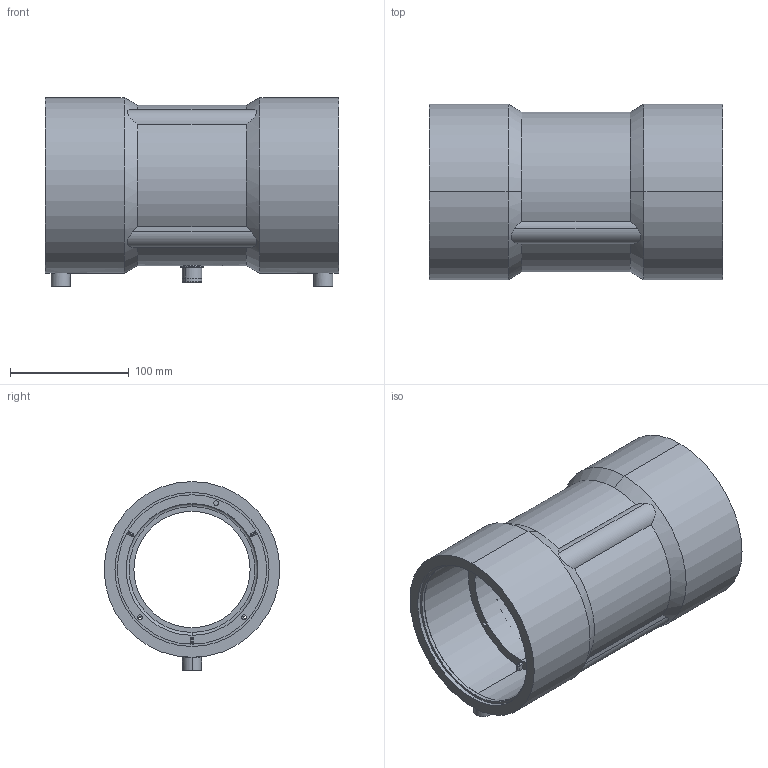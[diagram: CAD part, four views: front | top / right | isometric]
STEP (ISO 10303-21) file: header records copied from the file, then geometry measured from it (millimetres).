
FILE_DESCRIPTION (( 'STEP AP203' ), '1' );
FILE_NAME ('KP_2-125-110SC.step', '2011-08-08T12:05:48', ( '' ), ( '' ), 'SwSTEP 2.0', 'SolidWorks 2011', '' );
FILE_SCHEMA (( 'CONFIG_CONTROL_DESIGN' ));
Length unit declared in the file: millimetre
Products named in the file (1): KP_2-125-110SC
Bounding box: 247.5 x 148 x 159 mm (x, y, z)
Volume: 1244049.7 mm3; surface area: 280144.3 mm2
Topology: 1 solids, 10 shells, 503 faces, 1319 edges, 837 vertices
Faces by surface type: cylinder 316, plane 105, torus 28, cone 24, bspline 16, sphere 14
Entity records: 19662 total; most frequent: CARTESIAN_POINT 8093, ORIENTED_EDGE 2616, DIRECTION 2296, EDGE_CURVE 1308, AXIS2_PLACEMENT_3D 908, VERTEX_POINT 834, EDGE_LOOP 532, FACE_OUTER_BOUND 503
